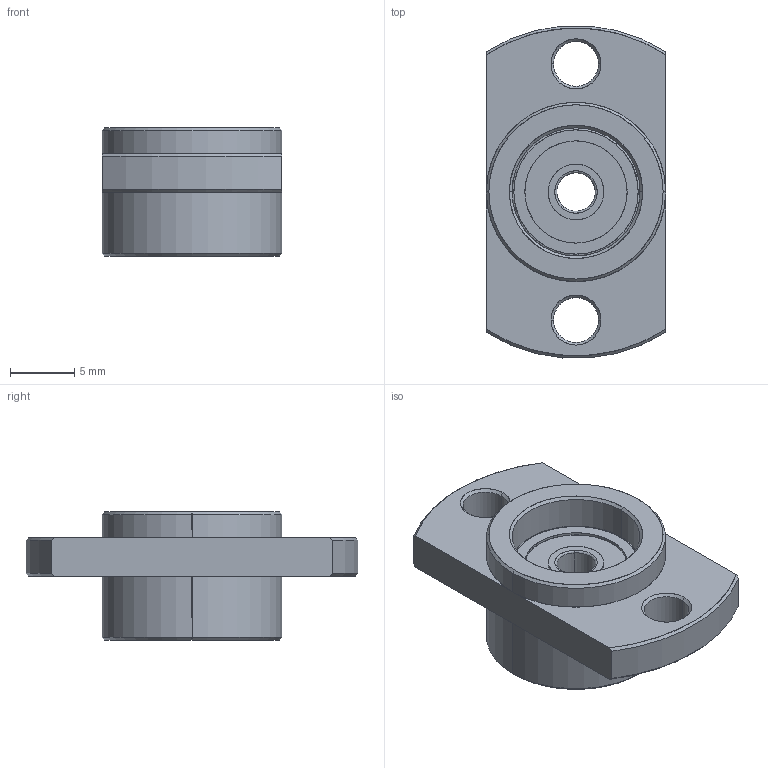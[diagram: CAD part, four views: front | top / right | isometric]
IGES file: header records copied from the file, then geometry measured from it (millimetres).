
Start section: SolidWorks IGES file using analytic representation for surfaces
Bounding box: 14 x 25.91 x 10 mm (x, y, z)
Surface area: 1690.5 mm2 (no closed solid volume)
Topology: 0 solids, 0 shells, 66 faces, 972 edges, 972 vertices
Faces by surface type: revolution 44, bspline 22
